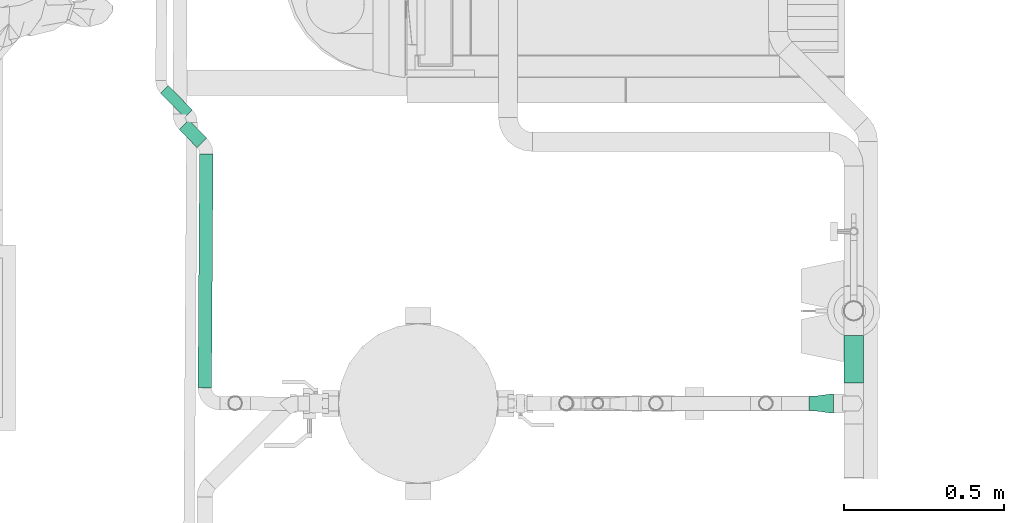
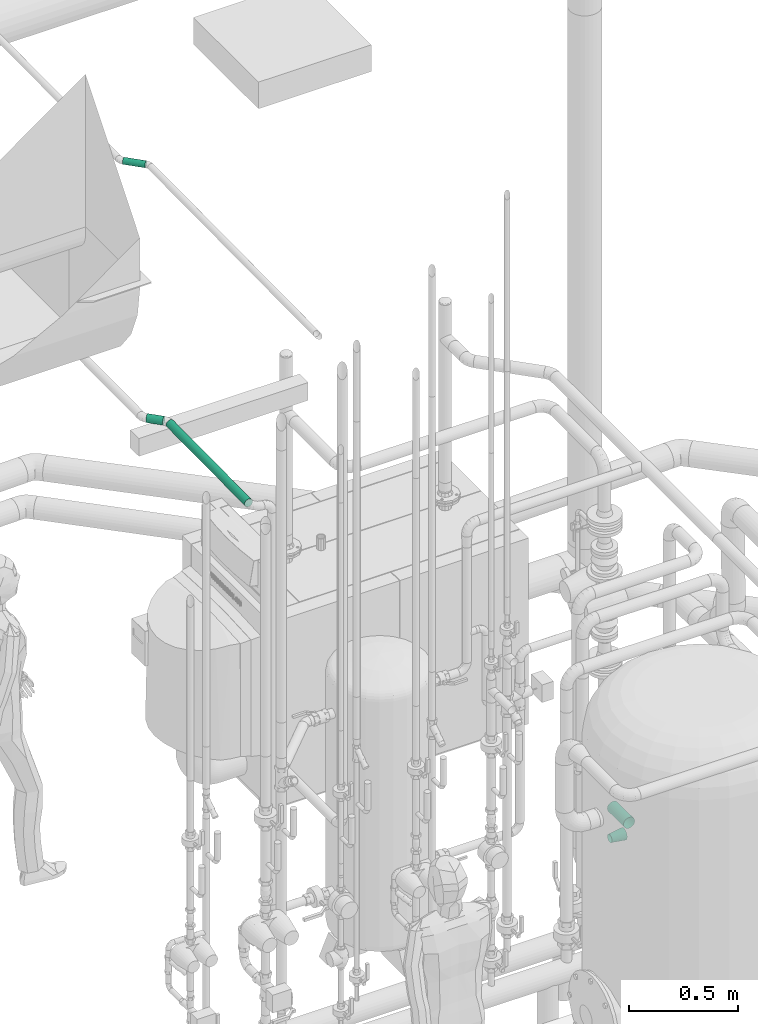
# One storey, part 291 of 374: 4 flow segments, 1 flow fitting.
"""IFC2X3 building model written with IfcOpenShell, lengths in metres."""

from ifc_helpers import new_model, si_unit, direction, origin, place, context, subcontext, project, spatial, open_shell, surface_model, source, transform, mapped, element, save


model = new_model("IFC2X3")

# Units and contexts
model_context = context("Model", 3, precision=1e-05, world=origin(), true_north=direction((-0.4480736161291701, 0.8939966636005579)))
body_context = subcontext(model_context, "Body", "Model", "MODEL_VIEW")
ifc_project = project(units=[si_unit("LENGTHUNIT", "METRE"), si_unit("AREAUNIT", "SQUARE_METRE"), si_unit("VOLUMEUNIT", "CUBIC_METRE"), si_unit("PLANEANGLEUNIT", "RADIAN"), si_unit("THERMODYNAMICTEMPERATUREUNIT", "KELVIN"), si_unit("MASSUNIT", "GRAM", prefix="KILO"), si_unit("TIMEUNIT", "SECOND")], contexts=[model_context])

# Site, building, storey
site_placement = place(None, origin())
site = spatial("IfcSite", under=ifc_project, at=site_placement, Name="Site 1", CompositionType="ELEMENT")
building_placement = place(site_placement, origin())
building = spatial("IfcBuilding", under=site, at=building_placement, Name="Undefined", CompositionType="ELEMENT")
storey_placement = place(building_placement, origin())
storey = spatial("IfcBuildingStorey", under=building, at=storey_placement, Name="Rez de chauss\x8ee", CompositionType="ELEMENT", Elevation=0.0)

# Flow segments
shared_shape_1 = source(origin(), body_context, "Body", "SurfaceModel", [
    surface_model("IfcFaceBasedSurfaceModel", [(0.0, 0.005534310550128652, 0.0), (0.0, 0.0, 0.0), (0.08001443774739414, 0.0, 4.4408921e-16), (0.08001443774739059, 0.005534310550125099, 8.8817842e-16), (0.0, -0.00534573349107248, -0.0014323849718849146), (0.08001443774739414, -0.005345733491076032, -0.0014323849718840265), (0.0, -0.010138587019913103, -0.004199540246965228), (0.08001443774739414, -0.010138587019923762, -0.004199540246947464), (0.0, -0.01405193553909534, -0.008112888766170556), (0.08001443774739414, -0.01405193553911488, -0.00811288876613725), (0.0, -0.016819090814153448, -0.012905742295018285), (0.08001443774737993, -0.016819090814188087, -0.012905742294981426), (0.0, -0.018251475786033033, -0.018251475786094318), (0.08001443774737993, -0.018251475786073, -0.018251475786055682), (0.0, -0.0182514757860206, -0.02378578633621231), (0.08001443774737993, -0.018251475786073, -0.02378578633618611), (0.0, -0.01681909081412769, -0.029131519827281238), (0.08001443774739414, -0.016819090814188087, -0.029131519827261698), (0.0, -0.014051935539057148, -0.03392437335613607), (0.08001443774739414, -0.014051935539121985, -0.033924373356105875), (0.0, -0.010138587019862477, -0.037837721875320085), (0.08001443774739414, -0.010138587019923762, -0.03783772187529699), (0.0, -0.005345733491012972, -0.040604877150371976), (0.08001443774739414, -0.005345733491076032, -0.04060487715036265), (0.0, 6.4837024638e-14, -0.042037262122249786), (0.08001443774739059, -1.4210854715e-14, -0.04203726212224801), (0.0, 0.005534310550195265, -0.04203726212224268), (0.08001443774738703, 0.005534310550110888, -0.04203726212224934), (0.0, 0.010880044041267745, -0.04060487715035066), (0.08001443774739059, 0.01088004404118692, -0.04060487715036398), (0.0, 0.01567289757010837, -0.03783772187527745), (0.08001443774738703, 0.015672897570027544, -0.03783772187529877), (0.0, 0.019586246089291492, -0.033924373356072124), (0.08001443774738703, 0.019586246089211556, -0.033924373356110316), (0.0, 0.0223534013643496, -0.029131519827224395), (0.08001443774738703, 0.022353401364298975, -0.029131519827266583), (0.0, 0.02378578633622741, -0.023785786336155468), (0.08001443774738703, 0.023785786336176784, -0.02378578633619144), (0.0, 0.023785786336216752, -0.01825147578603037), (0.08001443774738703, 0.02378578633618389, -0.0182514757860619), (0.0, 0.022353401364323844, -0.012905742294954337), (0.08001443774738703, 0.022353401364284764, -0.012905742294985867), (0.0, 0.019586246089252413, -0.008112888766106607), (0.08001443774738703, 0.019586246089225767, -0.008112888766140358), (0.0, 0.015672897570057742, -0.004199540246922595), (0.08001443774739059, 0.01567289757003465, -0.004199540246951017), (0.0, 0.010880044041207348, -0.0014323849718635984), (0.08001443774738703, 0.01088004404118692, -0.001432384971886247)], [open_shell([[[0, 1, 2, 3]], [[1, 4, 5, 2]], [[4, 6, 7, 5]], [[6, 8, 9, 7]], [[8, 10, 11, 9]], [[10, 12, 13, 11]], [[12, 14, 15, 13]], [[14, 16, 17, 15]], [[16, 18, 19, 17]], [[18, 20, 21, 19]], [[20, 22, 23, 21]], [[22, 24, 25, 23]], [[24, 26, 27, 25]], [[26, 28, 29, 27]], [[28, 30, 31, 29]], [[30, 32, 33, 31]], [[32, 34, 35, 33]], [[34, 36, 37, 35]], [[36, 38, 39, 37]], [[38, 40, 41, 39]], [[40, 42, 43, 41]], [[42, 44, 45, 43]], [[44, 46, 47, 45]], [[46, 0, 3, 47]]])]),
])
flow_segment_1_placement = place(storey_placement, origin())
element("IfcFlowSegment", 1, at=flow_segment_1_placement, inside=storey, Name="Tube acier d'après DIN 2448", ObjectType="Tube acier d'après DIN 2448", context=body_context, shape_type="MappedRepresentation", body=[
    mapped(shared_shape_1, transform((52.8987637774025, 12.576875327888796, 2.6940055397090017), x_axis=(0.7021530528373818, -0.7120260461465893, 0.0), y_axis=(0.7059345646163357, 0.6961460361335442, 0.13052619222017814), z_axis=(-0.09293804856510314, -0.091649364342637, 0.9914448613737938))),
])
shared_shape_2 = source(origin(), body_context, "Body", "SurfaceModel", [
    surface_model("IfcFaceBasedSurfaceModel", [(0.0, 0.005534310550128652, 0.0), (0.0, 0.0, 0.0), (0.7323468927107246, 7.105427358e-15, -8.8817842e-16), (0.7323468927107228, 0.005534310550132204, 0.0), (0.0, -0.00534573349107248, -0.0014323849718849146), (0.7323468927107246, -0.005345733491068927, -0.0014323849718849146), (0.0, -0.010138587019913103, -0.004199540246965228), (0.7323468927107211, -0.01013858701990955, -0.004199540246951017), (0.0, -0.01405193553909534, -0.008112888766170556), (0.7323468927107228, -0.014051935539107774, -0.00811288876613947), (0.0, -0.016819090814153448, -0.012905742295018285), (0.7323468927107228, -0.016819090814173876, -0.012905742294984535), (0.0, -0.018251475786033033, -0.018251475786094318), (0.7323468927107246, -0.018251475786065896, -0.018251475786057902), (0.0, -0.0182514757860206, -0.02378578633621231), (0.7323468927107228, -0.01825147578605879, -0.02378578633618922), (0.0, -0.01681909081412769, -0.029131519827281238), (0.7323468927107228, -0.016819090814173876, -0.029131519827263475), (0.0, -0.014051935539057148, -0.03392437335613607), (0.7323468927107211, -0.014051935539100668, -0.03392437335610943), (0.0, -0.010138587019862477, -0.037837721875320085), (0.7323468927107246, -0.010138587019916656, -0.03783772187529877), (0.0, -0.005345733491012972, -0.040604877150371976), (0.7323468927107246, -0.005345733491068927, -0.04060487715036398), (0.0, 6.4837024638e-14, -0.042037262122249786), (0.7323468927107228, 0.0, -0.042037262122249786), (0.0, 0.005534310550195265, -0.04203726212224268), (0.7323468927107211, 0.005534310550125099, -0.042037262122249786), (0.0, 0.010880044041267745, -0.04060487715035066), (0.7323468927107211, 0.010880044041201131, -0.04060487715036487), (0.0, 0.01567289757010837, -0.03783772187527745), (0.7323468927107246, 0.01567289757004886, -0.03783772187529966), (0.0, 0.019586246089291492, -0.033924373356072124), (0.7323468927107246, 0.019586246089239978, -0.033924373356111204), (0.0, 0.0223534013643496, -0.029131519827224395), (0.7323468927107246, 0.02235340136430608, -0.02913151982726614), (0.0, 0.02378578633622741, -0.023785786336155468), (0.7323468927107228, 0.0237857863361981, -0.023785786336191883), (0.0, 0.023785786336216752, -0.01825147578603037), (0.7323468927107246, 0.023785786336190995, -0.018251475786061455), (0.0, 0.022353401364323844, -0.012905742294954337), (0.7323468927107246, 0.02235340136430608, -0.012905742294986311), (0.0, 0.019586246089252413, -0.008112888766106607), (0.7323468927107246, 0.019586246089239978, -0.008112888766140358), (0.0, 0.015672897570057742, -0.004199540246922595), (0.7323468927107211, 0.01567289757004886, -0.004199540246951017), (0.0, 0.010880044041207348, -0.0014323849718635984), (0.7323468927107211, 0.010880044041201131, -0.001432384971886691)], [open_shell([[[0, 1, 2, 3]], [[1, 4, 5, 2]], [[4, 6, 7, 5]], [[6, 8, 9, 7]], [[8, 10, 11, 9]], [[10, 12, 13, 11]], [[12, 14, 15, 13]], [[14, 16, 17, 15]], [[16, 18, 19, 17]], [[18, 20, 21, 19]], [[20, 22, 23, 21]], [[22, 24, 25, 23]], [[24, 26, 27, 25]], [[26, 28, 29, 27]], [[28, 30, 31, 29]], [[30, 32, 33, 31]], [[32, 34, 35, 33]], [[34, 36, 37, 35]], [[36, 38, 39, 37]], [[38, 40, 41, 39]], [[40, 42, 43, 41]], [[42, 44, 45, 43]], [[44, 46, 47, 45]], [[46, 0, 3, 47]]])]),
])
flow_segment_2_placement = place(storey_placement, origin())
element("IfcFlowSegment", 2, at=flow_segment_2_placement, inside=storey, Name="Tube acier d'après DIN 2448", ObjectType="Tube acier d'après DIN 2448", context=body_context, shape_type="MappedRepresentation", body=[
    mapped(shared_shape_2, transform((52.96718777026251, 12.489755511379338, 2.6940055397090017), x_axis=(-0.00698126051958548, -0.9999756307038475, 0.0), y_axis=(0.9914207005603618, -0.0069215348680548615, 0.1305261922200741), z_axis=(-0.13052301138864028, 0.000911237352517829, 0.9914448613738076))),
])
shared_shape_3 = source(origin(), body_context, "Body", "SurfaceModel", [
    surface_model("IfcFaceBasedSurfaceModel", [(0.0, 0.004398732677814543, 0.0), (0.0, 0.0, 0.0), (0.10707799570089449, 0.0, 0.0), (0.1070779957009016, 0.004398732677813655, 0.0), (0.0, -0.004248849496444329, -0.00113847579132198), (0.10707799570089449, -0.004248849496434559, -0.0011384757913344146), (0.0, -0.008058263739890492, -0.003337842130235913), (0.1070779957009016, -0.008058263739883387, -0.003337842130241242), (0.0, -0.01116863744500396, -0.0064482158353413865), (0.10707799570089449, -0.011168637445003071, -0.006448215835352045), (0.0, -0.013368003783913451, -0.010257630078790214), (0.10707799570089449, -0.013368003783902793, -0.01025763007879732), (0.0, -0.014506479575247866, -0.014506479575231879), (0.10707799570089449, -0.014506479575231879, -0.014506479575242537), (0.0, -0.01450647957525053, -0.01890521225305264), (0.10707799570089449, -0.014506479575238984, -0.01890521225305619), (0.0, -0.013368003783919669, -0.023154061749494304), (0.10707799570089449, -0.013368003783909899, -0.02315406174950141), (0.0, -0.011168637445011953, -0.02696347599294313), (0.1070779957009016, -0.011168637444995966, -0.026963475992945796), (0.0, -0.008058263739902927, -0.03007384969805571), (0.10707799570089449, -0.008058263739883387, -0.0300738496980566), (0.0, -0.004248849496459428, -0.03227321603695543), (0.10707799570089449, -0.0042488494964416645, -0.032273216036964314), (0.0, -1.5099033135e-14, -0.03341169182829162), (0.1070779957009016, 0.0, -0.03341169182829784), (0.0, 0.00439873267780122, -0.03341169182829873), (0.1070779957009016, 0.00439873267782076, -0.03341169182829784), (0.0, 0.008647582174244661, -0.03227321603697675), (0.10707799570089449, 0.008647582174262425, -0.032273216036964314), (0.0, 0.012456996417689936, -0.030073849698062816), (0.10707799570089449, 0.012456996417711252, -0.0300738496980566), (0.0, 0.01556737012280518, -0.026963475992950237), (0.1070779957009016, 0.015567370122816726, -0.026963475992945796), (0.0, 0.017766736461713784, -0.023154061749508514), (0.1070779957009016, 0.01776673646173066, -0.02315406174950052), (0.0, 0.018905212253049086, -0.01890521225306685), (0.10707799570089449, 0.01890521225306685, -0.018905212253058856), (0.0, 0.018905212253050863, -0.01450647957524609), (0.1070779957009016, 0.01890521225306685, -0.014506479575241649), (0.0, 0.01776673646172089, -0.01025763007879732), (0.1070779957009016, 0.017766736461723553, -0.010257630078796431), (0.0, 0.015567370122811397, -0.006448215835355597), (0.10707799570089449, 0.015567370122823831, -0.006448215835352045), (0.0, 0.012456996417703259, -0.0033378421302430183), (0.10707799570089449, 0.012456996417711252, -0.00333784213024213), (0.0, 0.00864758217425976, -0.0011384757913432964), (0.1070779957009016, 0.008647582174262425, -0.0011384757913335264)], [open_shell([[[0, 1, 2, 3]], [[1, 4, 5, 2]], [[4, 6, 7, 5]], [[6, 8, 9, 7]], [[8, 10, 11, 9]], [[10, 12, 13, 11]], [[12, 14, 15, 13]], [[14, 16, 17, 15]], [[16, 18, 19, 17]], [[18, 20, 21, 19]], [[20, 22, 23, 21]], [[22, 24, 25, 23]], [[24, 26, 27, 25]], [[26, 28, 29, 27]], [[28, 30, 31, 29]], [[30, 32, 33, 31]], [[32, 34, 35, 33]], [[34, 36, 37, 35]], [[36, 38, 39, 37]], [[38, 40, 41, 39]], [[40, 42, 43, 41]], [[42, 44, 45, 43]], [[44, 46, 47, 45]], [[46, 0, 3, 47]]])]),
])
flow_segment_3_placement = place(storey_placement, origin())
element("IfcFlowSegment", 3, at=flow_segment_3_placement, inside=storey, Name="Tube acier d'après DIN 2448", ObjectType="Tube acier d'après DIN 2448", context=body_context, shape_type="MappedRepresentation", body=[
    mapped(shared_shape_3, transform((52.84441999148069, 12.694739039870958, 4.058034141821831), x_axis=(0.7021530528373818, -0.7120260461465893, 0.0), y_axis=(-0.7059345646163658, -0.6961460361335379, -0.1305261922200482), z_axis=(0.09293804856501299, 0.09164936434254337, -0.9914448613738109))),
])
shared_shape_4 = source(origin(), body_context, "Body", "SurfaceModel", [
    surface_model("IfcFaceBasedSurfaceModel", [(0.0, 0.007870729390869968, 7.105427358e-15), (0.0, 0.0, 0.0), (0.1495920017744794, 0.0, 0.0), (0.1495920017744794, 0.007870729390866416, 0.0), (0.0, -0.00760254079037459, -0.0020370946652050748), (0.1495920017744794, -0.007602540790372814, -0.0020370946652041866), (0.0, -0.01441879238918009, -0.00597245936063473), (0.1495920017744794, -0.014418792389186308, -0.0059724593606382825), (0.0, -0.019984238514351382, -0.011537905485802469), (0.1495920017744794, -0.019984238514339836, -0.011537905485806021), (0.0, -0.023919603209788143, -0.018354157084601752), (0.1495920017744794, -0.023919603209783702, -0.018354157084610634), (0.0, -0.025956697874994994, -0.025956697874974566), (0.1495920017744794, -0.025956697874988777, -0.025956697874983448), (0.0, -0.025956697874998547, -0.03382742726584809), (0.1495920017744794, -0.025956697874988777, -0.03382742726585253), (0.0, -0.02391960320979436, -0.041429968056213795), (0.1495920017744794, -0.023919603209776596, -0.04142996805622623), (0.0, -0.019984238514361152, -0.04824621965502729), (0.1495920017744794, -0.019984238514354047, -0.04824621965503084), (0.0, -0.01441879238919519, -0.05381166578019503), (0.1495920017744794, -0.014418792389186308, -0.05381166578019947), (0.0, -0.007602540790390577, -0.05774703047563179), (0.1495920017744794, -0.007602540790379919, -0.05774703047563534), (0.0, -1.7763568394e-14, -0.05978412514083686), (0.1495920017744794, -7.105427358e-15, -0.059784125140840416), (0.0, 0.007870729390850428, -0.05978412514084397), (0.1495920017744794, 0.00787072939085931, -0.059784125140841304), (0.0, 0.015473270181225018, -0.057747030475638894), (0.1495920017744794, 0.015473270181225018, -0.05774703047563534), (0.0, 0.022289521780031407, -0.05381166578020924), (0.1495920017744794, 0.022289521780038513, -0.053811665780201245), (0.0, 0.027854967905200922, -0.048246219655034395), (0.1495920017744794, 0.02785496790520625, -0.048246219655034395), (0.0, 0.031790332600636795, -0.04142996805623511), (0.1495920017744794, 0.03179033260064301, -0.041429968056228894), (0.0, 0.033827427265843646, -0.0338274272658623), (0.1495920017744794, 0.03382742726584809, -0.03382742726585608), (0.0, 0.0338274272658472, -0.025956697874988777), (0.1495920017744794, 0.03382742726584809, -0.025956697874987), (0.0, 0.0317903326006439, -0.01835415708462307), (0.1495920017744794, 0.03179033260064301, -0.018354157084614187), (0.0, 0.02785496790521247, -0.01153790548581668), (0.1495920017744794, 0.02785496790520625, -0.011537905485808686), (0.0, 0.022289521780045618, -0.005972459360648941), (0.1495920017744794, 0.022289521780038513, -0.005972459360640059), (0.0, 0.015473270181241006, -0.0020370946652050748), (0.1495920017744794, 0.01547327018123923, -0.002037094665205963)], [open_shell([[[0, 1, 2, 3]], [[1, 4, 5, 2]], [[4, 6, 7, 5]], [[6, 8, 9, 7]], [[8, 10, 11, 9]], [[10, 12, 13, 11]], [[12, 14, 15, 13]], [[14, 16, 17, 15]], [[16, 18, 19, 17]], [[18, 20, 21, 19]], [[20, 22, 23, 21]], [[22, 24, 25, 23]], [[24, 26, 27, 25]], [[26, 28, 29, 27]], [[28, 30, 31, 29]], [[30, 32, 33, 31]], [[32, 34, 35, 33]], [[34, 36, 37, 35]], [[36, 38, 39, 37]], [[38, 40, 41, 39]], [[40, 42, 43, 41]], [[42, 44, 45, 43]], [[44, 46, 47, 45]], [[46, 0, 3, 47]]])]),
])
flow_segment_4_placement = place(storey_placement, origin())
element("IfcFlowSegment", 4, at=flow_segment_4_placement, inside=storey, Name="Tube acier d'après DIN 2448", ObjectType="Tube acier d'après DIN 2448", context=body_context, shape_type="MappedRepresentation", body=[
    mapped(shared_shape_4, transform((54.9915258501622, 11.772084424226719, 0.1253533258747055), x_axis=(0.0, 1.0, 0.0), y_axis=(0.9914448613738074, 0.0, -0.13052619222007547), z_axis=(-0.13052619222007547, 0.0, -0.9914448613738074))),
])

# Flow fitting
shared_shape_5 = source(origin(), body_context, "Body", "SurfaceModel", [
    surface_model("IfcFaceBasedSurfaceModel", [(0.0, 0.0, 0.0), (0.007870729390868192, 0.0, -7.105427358e-15), (0.007870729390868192, 0.005490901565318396, -7.105427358e-15), (-8.8817842e-16, 0.005490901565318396, 0.0), (0.015473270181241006, 0.0, -0.00203709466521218), (0.015473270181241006, 0.005490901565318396, -0.00203709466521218), (0.02228952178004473, 0.0, -0.005972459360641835), (0.02228952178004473, 0.005490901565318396, -0.005972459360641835), (0.02785496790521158, 0.0, -0.011537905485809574), (0.02785496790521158, 0.005490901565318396, -0.011537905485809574), (0.03179033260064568, 0.0, -0.01835415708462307), (0.03179033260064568, 0.005490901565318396, -0.01835415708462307), (0.03382742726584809, 0.0, -0.025956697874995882), (0.03382742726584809, 0.005490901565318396, -0.025956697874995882), (0.03382742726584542, 0.0, -0.0338274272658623), (0.03382742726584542, 0.005490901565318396, -0.0338274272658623), (0.03179033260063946, 0.0, -0.04142996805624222), (0.03179033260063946, 0.005490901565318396, -0.04142996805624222), (0.0278549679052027, 0.0, -0.048246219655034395), (0.0278549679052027, 0.005490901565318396, -0.048246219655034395), (0.022289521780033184, 0.0, -0.05381166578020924), (0.022289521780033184, 0.005490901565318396, -0.05381166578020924), (0.015473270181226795, 0.0, -0.057747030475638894), (0.015473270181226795, 0.005490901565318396, -0.057747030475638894), (0.007870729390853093, 0.0, -0.05978412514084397), (0.007870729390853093, 0.005490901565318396, -0.05978412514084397), (0.0, -1.7763568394e-14, -0.05978412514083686), (-1.5099033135e-14, 0.005490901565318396, -0.05978412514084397), (-0.007602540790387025, 0.0, -0.057747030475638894), (-0.007602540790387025, 0.005490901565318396, -0.057747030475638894), (-0.014418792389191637, 0.0, -0.05381166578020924), (-0.014418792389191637, 0.005490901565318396, -0.05381166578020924), (-0.0199842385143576, 0.0, -0.04824621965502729), (-0.0199842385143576, 0.005490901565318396, -0.04824621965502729), (-0.023919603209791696, 0.0, -0.0414299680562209), (-0.023919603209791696, 0.005490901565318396, -0.0414299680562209), (-0.025956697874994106, 0.0, -0.03382742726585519), (-0.025956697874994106, 0.005490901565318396, -0.03382742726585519), (-0.025956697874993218, 0.0, -0.02595669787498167), (-0.025956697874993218, 0.005490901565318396, -0.02595669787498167), (-0.02391960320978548, 0.0, -0.018354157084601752), (-0.02391960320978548, 0.005490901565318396, -0.018354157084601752), (-0.019984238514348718, 0.0, -0.011537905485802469), (-0.019984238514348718, 0.005490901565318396, -0.011537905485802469), (-0.014418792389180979, 0.0, -0.00597245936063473), (-0.014418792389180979, 0.005490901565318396, -0.00597245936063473), (-0.007602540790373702, 0.0, -0.0020370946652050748), (-0.007602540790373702, 0.005490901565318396, -0.0020370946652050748), (0.024953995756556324, 0.07139565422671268, -0.032659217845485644), (0.0249539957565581, 0.07139565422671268, -0.02712490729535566), (0.02352161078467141, 0.07139565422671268, -0.038004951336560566), (0.020754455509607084, 0.07139565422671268, -0.04279780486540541), (0.016841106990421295, 0.07139565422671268, -0.04671115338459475), (0.012048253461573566, 0.07139565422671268, -0.049478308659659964), (0.00670251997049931, 0.07139565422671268, -0.05091069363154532), (0.001168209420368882, 0.07139565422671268, -0.050910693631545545), (-0.004177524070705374, 0.07139565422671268, -0.049478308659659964), (-0.008970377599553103, 0.07139565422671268, -0.04671115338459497), (-0.012883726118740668, 0.07139565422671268, -0.04279780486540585), (-0.01565088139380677, 0.07139565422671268, -0.03800495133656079), (-0.01708326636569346, 0.07139565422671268, -0.03265921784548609), (-0.017083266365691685, 0.07139565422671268, -0.027124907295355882), (-0.01565088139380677, 0.07139565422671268, -0.02177917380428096), (-0.012883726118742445, 0.07139565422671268, -0.016986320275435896), (-0.008970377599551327, 0.07139565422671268, -0.013072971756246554), (-0.004177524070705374, 0.07139565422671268, -0.010305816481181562), (0.001168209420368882, 0.07139565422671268, -0.00887343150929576), (0.00670251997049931, 0.07139565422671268, -0.008873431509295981), (0.012048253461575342, 0.07139565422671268, -0.01030581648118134), (0.016841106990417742, 0.07139565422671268, -0.013072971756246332), (0.020754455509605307, 0.07139565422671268, -0.016986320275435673), (0.02352161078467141, 0.07139565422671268, -0.021779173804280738), (0.00670251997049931, 0.07600000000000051, -0.008873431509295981), (0.001168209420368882, 0.07600000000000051, -0.008873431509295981), (0.012048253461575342, 0.07600000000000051, -0.01030581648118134), (0.016841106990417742, 0.07600000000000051, -0.013072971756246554), (0.020754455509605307, 0.07600000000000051, -0.016986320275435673), (0.02352161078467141, 0.07600000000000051, -0.021779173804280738), (0.024953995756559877, 0.07600000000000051, -0.027124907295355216), (0.024953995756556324, 0.07600000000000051, -0.032659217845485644), (0.02352161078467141, 0.07600000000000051, -0.038004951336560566), (0.020754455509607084, 0.07600000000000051, -0.04279780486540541), (0.016841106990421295, 0.07600000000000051, -0.04671115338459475), (0.012048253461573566, 0.07600000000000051, -0.049478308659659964), (0.00670251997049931, 0.07600000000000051, -0.05091069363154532), (0.001168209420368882, 0.07600000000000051, -0.050910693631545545), (-0.004177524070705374, 0.07600000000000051, -0.049478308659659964), (-0.008970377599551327, 0.07600000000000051, -0.04671115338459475), (-0.012883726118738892, 0.07600000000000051, -0.04279780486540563), (-0.015650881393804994, 0.07600000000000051, -0.03800495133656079), (-0.01708326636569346, 0.07600000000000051, -0.03265921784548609), (-0.01708326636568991, 0.07600000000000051, -0.02712490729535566), (-0.015650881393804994, 0.07600000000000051, -0.021779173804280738), (-0.012883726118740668, 0.07600000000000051, -0.016986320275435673), (-0.008970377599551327, 0.07600000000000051, -0.013072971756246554), (-0.004177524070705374, 0.07600000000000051, -0.010305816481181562)], [open_shell([[[0, 1, 2, 3]], [[1, 4, 5, 2]], [[4, 6, 7, 5]], [[6, 8, 9, 7]], [[8, 10, 11, 9]], [[10, 12, 13, 11]], [[12, 14, 15, 13]], [[14, 16, 17, 15]], [[16, 18, 19, 17]], [[18, 20, 21, 19]], [[20, 22, 23, 21]], [[22, 24, 25, 23]], [[24, 26, 27, 25]], [[26, 28, 29, 27]], [[28, 30, 31, 29]], [[30, 32, 33, 31]], [[32, 34, 35, 33]], [[34, 36, 37, 35]], [[36, 38, 39, 37]], [[38, 40, 41, 39]], [[40, 42, 43, 41]], [[42, 44, 45, 43]], [[44, 46, 47, 45]], [[46, 0, 3, 47]], [[13, 15, 48, 49]], [[15, 17, 50, 48]], [[17, 19, 51, 50]], [[19, 21, 52, 51]], [[21, 23, 53, 52]], [[23, 25, 54, 53]], [[25, 27, 55, 54]], [[27, 29, 56, 55]], [[29, 31, 57, 56]], [[31, 33, 58, 57]], [[33, 35, 59, 58]], [[35, 37, 60, 59]], [[37, 39, 61, 60]], [[39, 41, 62, 61]], [[41, 43, 63, 62]], [[43, 45, 64, 63]], [[45, 47, 65, 64]], [[47, 3, 66, 65]], [[3, 2, 67, 66]], [[2, 5, 68, 67]], [[5, 7, 69, 68]], [[7, 9, 70, 69]], [[9, 11, 71, 70]], [[11, 13, 49, 71]], [[66, 67, 72, 73]], [[67, 68, 74, 72]], [[68, 69, 75, 74]], [[69, 70, 76, 75]], [[70, 71, 77, 76]], [[71, 49, 78, 77]], [[49, 48, 79, 78]], [[48, 50, 80, 79]], [[50, 51, 81, 80]], [[51, 52, 82, 81]], [[52, 53, 83, 82]], [[53, 54, 84, 83]], [[54, 55, 85, 84]], [[55, 56, 86, 85]], [[56, 57, 87, 86]], [[57, 58, 88, 87]], [[58, 59, 89, 88]], [[59, 60, 90, 89]], [[60, 61, 91, 90]], [[61, 62, 92, 91]], [[62, 63, 93, 92]], [[63, 64, 94, 93]], [[64, 65, 95, 94]], [[65, 66, 73, 95]]])]),
])
flow_fitting_placement = place(storey_placement, origin())
element("IfcFlowFitting", 5, at=flow_fitting_placement, inside=storey, Name="Réduction", ObjectType="Réduction", context=body_context, shape_type="MappedRepresentation", body=[
    mapped(shared_shape_5, transform((54.935329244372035, 11.708084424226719, 0.12432598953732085), x_axis=(7.266545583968e-12, -0.9914448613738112, 0.13052619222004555), y_axis=(-1.0, 0.0, 0.0), z_axis=(9.56658874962e-13, -0.13052619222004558, -0.9914448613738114))),
])

save(model, "model.ifc")
